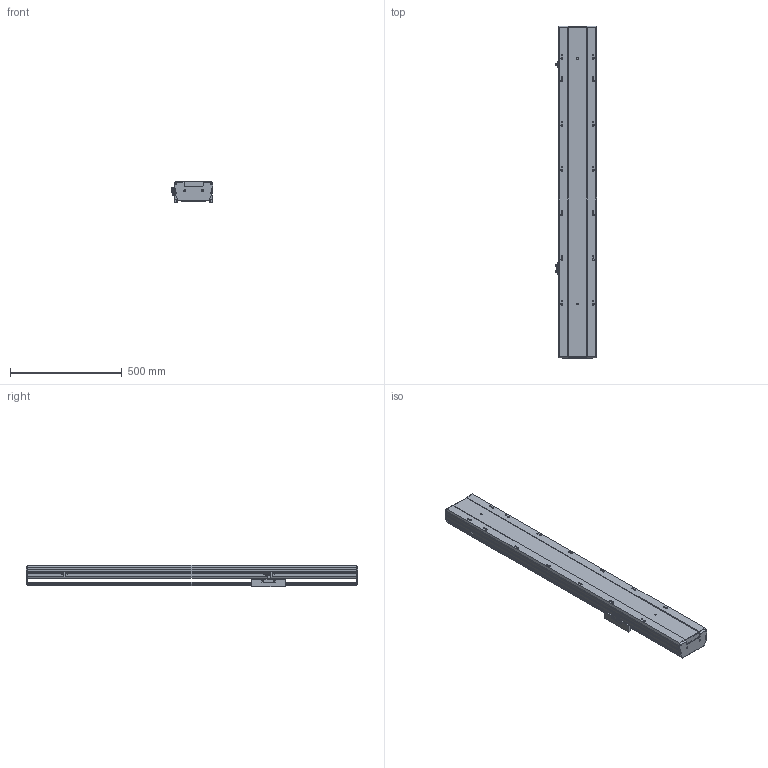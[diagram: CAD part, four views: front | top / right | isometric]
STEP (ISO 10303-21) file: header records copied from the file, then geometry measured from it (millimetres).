
FILE_DESCRIPTION (( 'STEP AP203' ), '1' );
FILE_NAME ('18.STEP', '2021-01-04T11:08:43', ( '' ), ( '' ), 'SwSTEP 2.0', 'SolidWorks 2016', '' );
FILE_SCHEMA (( 'CONFIG_CONTROL_DESIGN' ));
Length unit declared in the file: millimetre
Products named in the file (5): BTH17M-M-01; BTH17M-M-HZ; 18; BTH17M-M-04; BTH17M-M-菁釱
Assembly tree (7 placements, depth 2):
  18
    BTH17M-M-01  x2
    BTH17M-M-04  x3
    BTH17M-M-HZ
    BTH17M-M-菁釱
Bounding box: 183.7 x 1485 x 97 mm (x, y, z)
Volume: 9816569.4 mm3; surface area: 1613219.8 mm2
Topology: 9 solids, 9 shells, 961 faces, 2667 edges, 1724 vertices
Faces by surface type: plane 549, cylinder 356, cone 56
Entity records: 21709 total; most frequent: CARTESIAN_POINT 4188, DIRECTION 3554, ORIENTED_EDGE 3544, EDGE_CURVE 1772, AXIS2_PLACEMENT_3D 1220, VERTEX_POINT 1166, LINE 1114, VECTOR 1114
